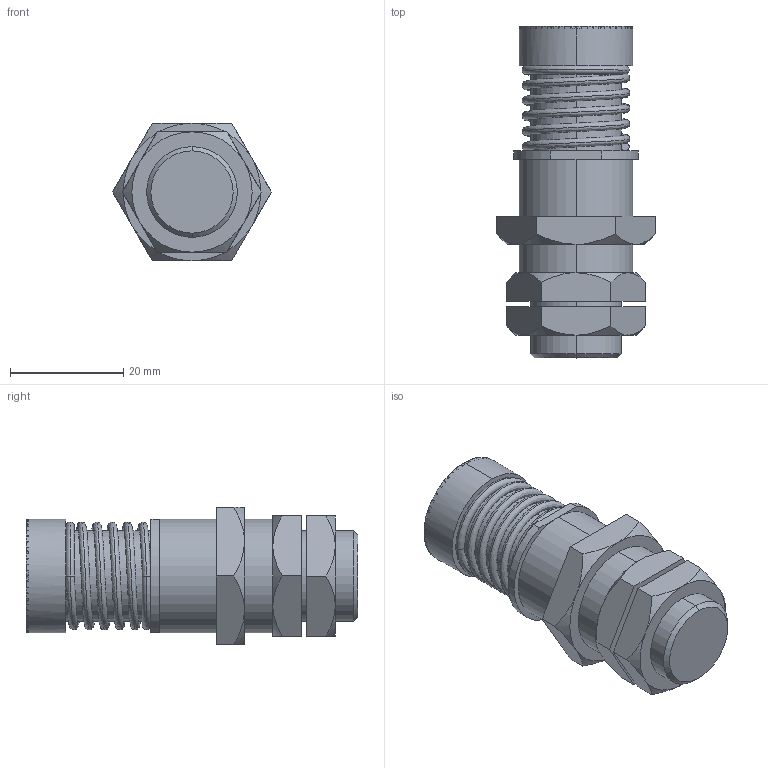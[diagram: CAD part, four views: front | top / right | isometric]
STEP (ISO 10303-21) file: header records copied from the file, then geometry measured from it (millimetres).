
FILE_DESCRIPTION (( 'STEP AP214' ), '1' );
FILE_NAME ('HD-PA12HS.STEP', '2024-01-25T11:13:30', ( '' ), ( '' ), 'SwSTEP 2.0', 'SolidWorks 2022', '' );
FILE_SCHEMA (( 'AUTOMOTIVE_DESIGN' ));
Length unit declared in the file: millimetre
Products named in the file (4): HD-PA12 Contact; M20 NUT; HD-PA12HS; M16 NUT
Assembly tree (4 placements, depth 2):
  HD-PA12HS
    HD-PA12 Contact
    M20 NUT
    M16 NUT  x2
Bounding box: 28 x 58.5 x 24.25 mm (x, y, z)
Volume: 18402.8 mm3; surface area: 11442.3 mm2
Topology: 6 solids, 6 shells, 1738 faces, 3592 edges, 1865 vertices
Faces by surface type: plane 1694, cone 22, cylinder 16, torus 4, bspline 2
Entity records: 43852 total; most frequent: CARTESIAN_POINT 8752, ORIENTED_EDGE 7112, DIRECTION 6948, EDGE_CURVE 3556, VECTOR 3270, LINE 3270, VERTEX_POINT 1843, AXIS2_PLACEMENT_3D 1839
